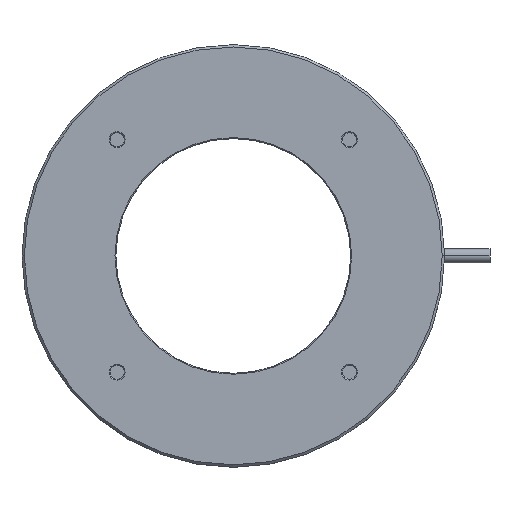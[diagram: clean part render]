
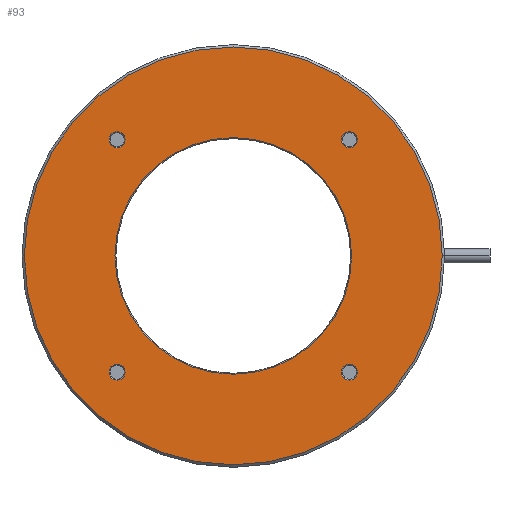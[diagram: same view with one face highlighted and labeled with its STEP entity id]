
A CAD part, top view. The second image highlights one B-rep face of the part: STEP entity #93.
In plain terms, the highlighted planar face has unit normal (0, 0, 1).
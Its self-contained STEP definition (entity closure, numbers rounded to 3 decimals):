
#93=ADVANCED_FACE('',(#187,#188,#189,#190,#191,#192),#193,.T.);
#187=FACE_BOUND('',#324,.T.);
#188=FACE_BOUND('',#325,.T.);
#189=FACE_OUTER_BOUND('',#326,.T.);
#190=FACE_BOUND('',#327,.T.);
#191=FACE_BOUND('',#328,.T.);
#192=FACE_BOUND('',#329,.T.);
#193=PLANE('',#330);
#324=EDGE_LOOP('',(#601,#602));
#325=EDGE_LOOP('',(#603,#604));
#326=EDGE_LOOP('',(#605,#606));
#327=EDGE_LOOP('',(#607,#608));
#328=EDGE_LOOP('',(#609,#610));
#329=EDGE_LOOP('',(#611,#612));
#330=AXIS2_PLACEMENT_3D('',#613,#614,#615);
#601=ORIENTED_EDGE('',*,*,#940,.F.);
#602=ORIENTED_EDGE('',*,*,#950,.F.);
#603=ORIENTED_EDGE('',*,*,#926,.F.);
#604=ORIENTED_EDGE('',*,*,#951,.F.);
#605=ORIENTED_EDGE('',*,*,#874,.F.);
#606=ORIENTED_EDGE('',*,*,#952,.F.);
#607=ORIENTED_EDGE('',*,*,#919,.F.);
#608=ORIENTED_EDGE('',*,*,#953,.F.);
#609=ORIENTED_EDGE('',*,*,#933,.F.);
#610=ORIENTED_EDGE('',*,*,#954,.F.);
#611=ORIENTED_EDGE('',*,*,#947,.F.);
#612=ORIENTED_EDGE('',*,*,#948,.F.);
#613=CARTESIAN_POINT('',(111.196,0.0,121.114));
#614=DIRECTION('',(0.0,0.0,1.0));
#615=DIRECTION('',(1.0,0.0,0.0));
#874=EDGE_CURVE('',#1015,#1017,#1018,.T.);
#919=EDGE_CURVE('',#1089,#1087,#1091,.T.);
#926=EDGE_CURVE('',#1102,#1100,#1104,.T.);
#933=EDGE_CURVE('',#1115,#1113,#1117,.T.);
#940=EDGE_CURVE('',#1128,#1126,#1130,.T.);
#947=EDGE_CURVE('',#1141,#1139,#1143,.T.);
#948=EDGE_CURVE('',#1139,#1141,#1144,.T.);
#950=EDGE_CURVE('',#1126,#1128,#1146,.T.);
#951=EDGE_CURVE('',#1100,#1102,#1147,.T.);
#952=EDGE_CURVE('',#1017,#1015,#1148,.T.);
#953=EDGE_CURVE('',#1087,#1089,#1149,.T.);
#954=EDGE_CURVE('',#1113,#1115,#1150,.T.);
#1015=VERTEX_POINT('',#1225);
#1017=VERTEX_POINT('',#1228);
#1018=CIRCLE('',#1229,44.5);
#1087=VERTEX_POINT('',#1323);
#1089=VERTEX_POINT('',#1326);
#1091=CIRCLE('',#1329,25.2);
#1100=VERTEX_POINT('',#1340);
#1102=VERTEX_POINT('',#1343);
#1104=CIRCLE('',#1346,1.7);
#1113=VERTEX_POINT('',#1357);
#1115=VERTEX_POINT('',#1360);
#1117=CIRCLE('',#1363,1.7);
#1126=VERTEX_POINT('',#1374);
#1128=VERTEX_POINT('',#1377);
#1130=CIRCLE('',#1380,1.7);
#1139=VERTEX_POINT('',#1391);
#1141=VERTEX_POINT('',#1394);
#1143=CIRCLE('',#1397,1.7);
#1144=CIRCLE('',#1398,1.7);
#1146=CIRCLE('',#1400,1.7);
#1147=CIRCLE('',#1401,1.7);
#1148=CIRCLE('',#1402,44.5);
#1149=CIRCLE('',#1403,25.2);
#1150=CIRCLE('',#1404,1.7);
#1225=CARTESIAN_POINT('',(101.446,0.0,121.114));
#1228=CARTESIAN_POINT('',(190.446,0.,121.114));
#1229=AXIS2_PLACEMENT_3D('',#1472,#1473,#1474);
#1323=CARTESIAN_POINT('',(171.146,0.,121.114));
#1326=CARTESIAN_POINT('',(120.746,0.,121.114));
#1329=AXIS2_PLACEMENT_3D('',#1553,#1554,#1555);
#1340=CARTESIAN_POINT('',(172.394,24.749,121.114));
#1343=CARTESIAN_POINT('',(168.994,24.749,121.114));
#1346=AXIS2_PLACEMENT_3D('',#1566,#1567,#1568);
#1357=CARTESIAN_POINT('',(172.394,-24.749,121.114));
#1360=CARTESIAN_POINT('',(168.994,-24.749,121.114));
#1363=AXIS2_PLACEMENT_3D('',#1579,#1580,#1581);
#1374=CARTESIAN_POINT('',(122.897,-24.749,121.114));
#1377=CARTESIAN_POINT('',(119.497,-24.749,121.114));
#1380=AXIS2_PLACEMENT_3D('',#1592,#1593,#1594);
#1391=CARTESIAN_POINT('',(122.897,24.749,121.114));
#1394=CARTESIAN_POINT('',(119.497,24.749,121.114));
#1397=AXIS2_PLACEMENT_3D('',#1605,#1606,#1607);
#1398=AXIS2_PLACEMENT_3D('',#1608,#1609,#1610);
#1400=AXIS2_PLACEMENT_3D('',#1614,#1615,#1616);
#1401=AXIS2_PLACEMENT_3D('',#1617,#1618,#1619);
#1402=AXIS2_PLACEMENT_3D('',#1620,#1621,#1622);
#1403=AXIS2_PLACEMENT_3D('',#1623,#1624,#1625);
#1404=AXIS2_PLACEMENT_3D('',#1626,#1627,#1628);
#1472=CARTESIAN_POINT('',(145.946,0.0,121.114));
#1473=DIRECTION('',(0.0,0.0,-1.0));
#1474=DIRECTION('',(-1.0,0.0,0.0));
#1553=CARTESIAN_POINT('',(145.946,0.0,121.114));
#1554=DIRECTION('',(0.0,0.0,1.0));
#1555=DIRECTION('',(1.0,0.0,0.0));
#1566=CARTESIAN_POINT('',(170.694,24.749,121.114));
#1567=DIRECTION('',(0.0,0.0,1.0));
#1568=DIRECTION('',(1.0,0.0,0.0));
#1579=CARTESIAN_POINT('',(170.694,-24.749,121.114));
#1580=DIRECTION('',(0.0,0.0,1.0));
#1581=DIRECTION('',(1.0,0.0,0.0));
#1592=CARTESIAN_POINT('',(121.197,-24.749,121.114));
#1593=DIRECTION('',(0.0,0.0,1.0));
#1594=DIRECTION('',(1.0,0.0,0.0));
#1605=CARTESIAN_POINT('',(121.197,24.749,121.114));
#1606=DIRECTION('',(0.0,0.0,1.0));
#1607=DIRECTION('',(1.0,0.0,0.0));
#1608=CARTESIAN_POINT('',(121.197,24.749,121.114));
#1609=DIRECTION('',(0.0,0.0,1.0));
#1610=DIRECTION('',(1.0,0.0,0.0));
#1614=CARTESIAN_POINT('',(121.197,-24.749,121.114));
#1615=DIRECTION('',(0.0,0.0,1.0));
#1616=DIRECTION('',(1.0,0.0,0.0));
#1617=CARTESIAN_POINT('',(170.694,24.749,121.114));
#1618=DIRECTION('',(0.0,0.0,1.0));
#1619=DIRECTION('',(1.0,0.0,0.0));
#1620=CARTESIAN_POINT('',(145.946,0.0,121.114));
#1621=DIRECTION('',(0.0,0.0,-1.0));
#1622=DIRECTION('',(-1.0,0.0,0.0));
#1623=CARTESIAN_POINT('',(145.946,0.0,121.114));
#1624=DIRECTION('',(0.0,0.0,1.0));
#1625=DIRECTION('',(1.0,0.0,0.0));
#1626=CARTESIAN_POINT('',(170.694,-24.749,121.114));
#1627=DIRECTION('',(0.0,0.0,1.0));
#1628=DIRECTION('',(1.0,0.0,0.0));
